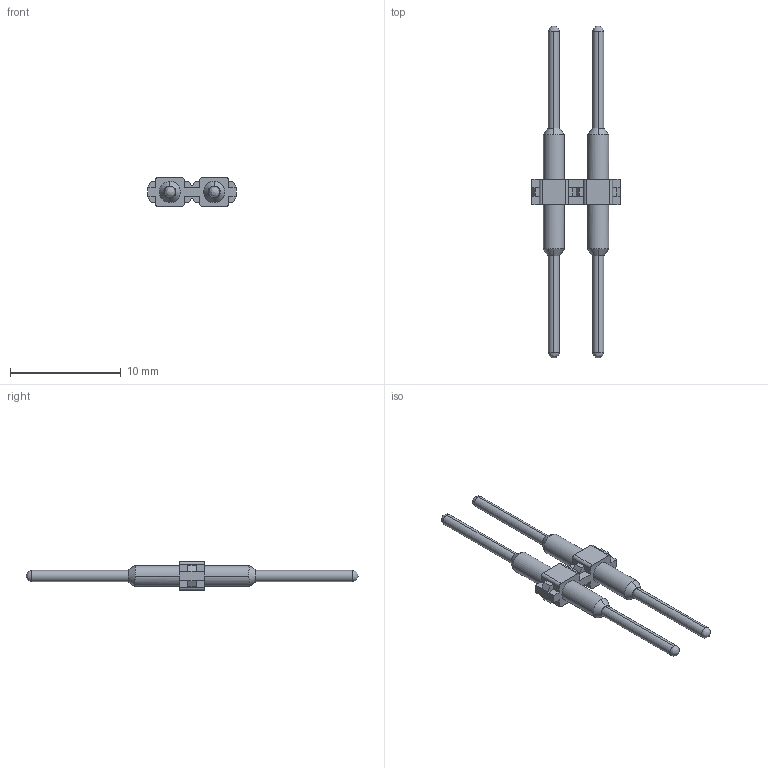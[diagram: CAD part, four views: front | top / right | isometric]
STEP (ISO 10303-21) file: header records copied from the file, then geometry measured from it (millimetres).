
FILE_DESCRIPTION(('CAx-IF Rec.Pracs.---Model Styling and Organization---1.2---2011-12-15','CAx-IF Rec.Pracs.---Geometric and Assembly Validation Properties---4.1---2014-06-16','CAx-IF Rec.Pracs.---PMI Polyline Presentation---2.0---2013-05-24'),'2;1');
FILE_NAME('01XYM07Y09.stp','2018-03-28T09:50:09+02:00',(''),(''),'STEP Interface 4.1 Sp1 by CT CoreTechnologie','3D_Evolution4.1 Sp1 by CT CoreTechnologie','');
FILE_SCHEMA(('AUTOMOTIVE_DESIGN { 1 0 10303 214 1 1 1 1 }'));
Length unit declared in the file: millimetre
Products named in the file (3): 01X-M07-09; 01X-L0Q-02; 01X-M07-02
Assembly tree (3 placements, depth 2):
  01X-M07-09
    01X-L0Q-02  x2
    01X-M07-02
Bounding box: 8 x 30 x 2.6 mm (x, y, z)
Volume: 116.3 mm3; surface area: 449 mm2
Topology: 3 solids, 3 shells, 96 faces, 272 edges, 178 vertices
Faces by surface type: plane 60, cylinder 24, bspline 12
Entity records: 3949 total; most frequent: CARTESIAN_POINT 686, ORIENTED_EDGE 516, DIRECTION 496, EDGE_CURVE 258, VECTOR 192, LINE 192, VERTEX_POINT 174, AXIS2_PLACEMENT_3D 152
